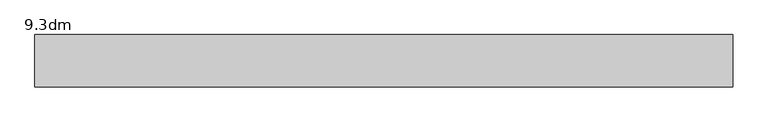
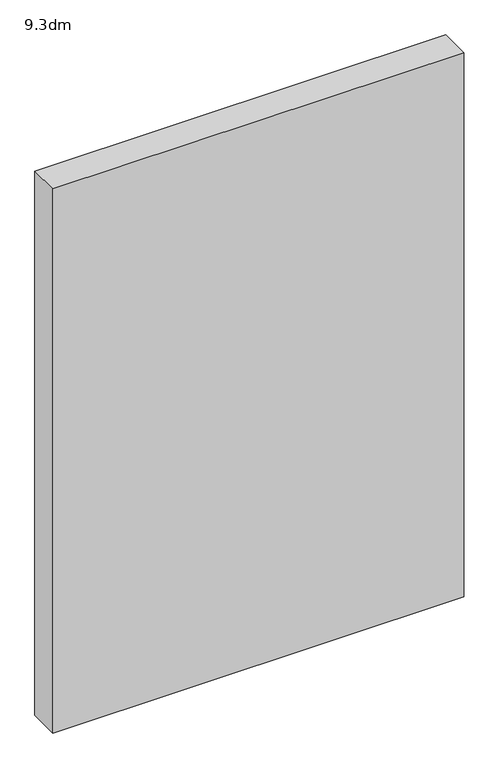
"""IFC4 building model written with IfcOpenShell, lengths in millimetres: proxy geometry, 9.3dm."""

from ifc_helpers import new_model, si_unit, origin, origin_with_axes, place, context, project, spatial, polyline, outline, extrude, source, transform, mapped, element, save


def proxy_9_3dm_41c21e3c(model_context):
    return source(origin(), model_context, "Body", "SweptSolid", [
        extrude(outline(polyline([(2254.0, 12.0), (2254.0, 162.0), (4254.0, 162.0), (4254.0, 12.0), (2254.0, 12.0)])), origin_with_axes(), (0.0, 0.0, 1.0), 2800.0),
    ])


if __name__ == "__main__":
    model = new_model("IFC4")
    model_context = context("Model", 3, world=origin())
    ifc_project = project(units=[si_unit("LENGTHUNIT", "METRE", prefix="MILLI")], contexts=[model_context])
    site = spatial("IfcSite", under=ifc_project)
    building = spatial("IfcBuilding", under=site)
    placement = place(None, origin())
    proxy_9_3dm_shape = proxy_9_3dm_41c21e3c(model_context)
    element("IfcBuildingElementProxy", 1, Name="9.3dm", ObjectType="9.3dm", at=placement, inside=building, context=model_context, shape_type="MappedRepresentation", body=[
        mapped(proxy_9_3dm_shape, transform((0.0, 0.0, 0.0), x_axis=(1.0, 0.0, 0.0), y_axis=(0.0, 1.0, 0.0), z_axis=(0.0, 0.0, 1.0))),
    ])
    save(model, "model.ifc")
